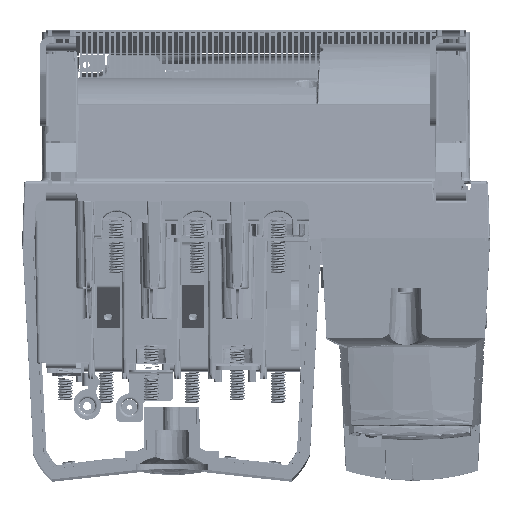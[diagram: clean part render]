
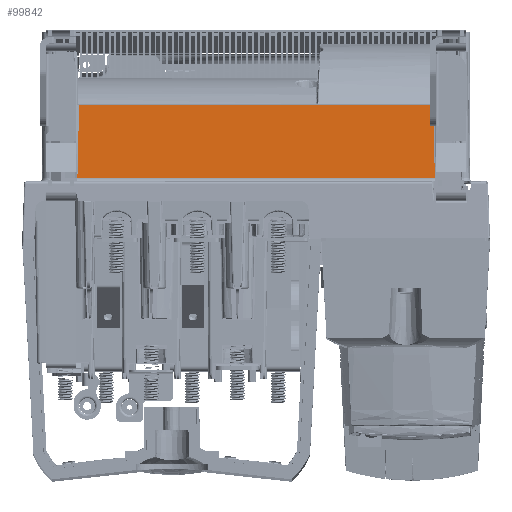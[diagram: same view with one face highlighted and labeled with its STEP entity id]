
A CAD part, top view. The second image highlights one B-rep face of the part: STEP entity #99842.
In plain terms, the highlighted planar face has unit normal (0, 0.035, 0.999).
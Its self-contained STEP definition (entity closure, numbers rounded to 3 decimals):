
#28645=DIRECTION('',(1.,0.,0.));
#28646=VECTOR('',#28645,234.615);
#28647=CARTESIAN_POINT('',(-222.308,112.717,
576.011));
#28648=LINE('',#28647,#28646);
#28649=CARTESIAN_POINT('',(12.308,112.717,576.011));
#28650=CARTESIAN_POINT('',(12.321,109.543,576.122));
#28651=CARTESIAN_POINT('',(12.356,103.455,576.335));
#28652=CARTESIAN_POINT('',(12.433,95.129,576.625));
#28653=CARTESIAN_POINT('',(12.536,87.55,576.89));
#28654=CARTESIAN_POINT('',(12.668,80.685,577.13));
#28655=CARTESIAN_POINT('',(12.834,74.489,577.346));
#28656=CARTESIAN_POINT('',(13.062,68.907,577.541));
#28657=CARTESIAN_POINT('',(13.26,65.524,577.659));
#28658=CARTESIAN_POINT('',(13.446,63.93,577.715));
#28660=DIRECTION('',(-1.,0.,0.));
#28661=VECTOR('',#28660,236.892);
#28662=CARTESIAN_POINT('',(13.446,63.93,577.715));
#28663=LINE('',#28662,#28661);
#28664=CARTESIAN_POINT('',(-222.308,112.717,
576.011));
#28665=CARTESIAN_POINT('',(-222.321,109.425,
576.126));
#28666=CARTESIAN_POINT('',(-222.358,103.183,
576.344));
#28667=CARTESIAN_POINT('',(-222.435,94.949,
576.632));
#28668=CARTESIAN_POINT('',(-222.536,87.549,
576.89));
#28669=CARTESIAN_POINT('',(-222.665,80.818,
577.125));
#28670=CARTESIAN_POINT('',(-222.83,74.613,
577.342));
#28671=CARTESIAN_POINT('',(-223.059,68.962,
577.539));
#28672=CARTESIAN_POINT('',(-223.257,65.543,
577.658));
#28673=CARTESIAN_POINT('',(-223.446,63.93,
577.715));
#35773=CARTESIAN_POINT('',(-222.308,112.717,
576.011));
#74626=CARTESIAN_POINT('',(-223.446,63.93,
577.715));
#74628=VERTEX_POINT('',#74626);
#74630=CARTESIAN_POINT('',(13.446,63.93,577.715));
#74632=VERTEX_POINT('',#74630);
#74640=VERTEX_POINT('',#35773);
#74642=CARTESIAN_POINT('',(12.308,112.717,576.011));
#74643=VERTEX_POINT('',#74642);
#99827=CARTESIAN_POINT('',(-260.,113.2,575.994));
#99828=DIRECTION('',(0.,0.035,0.999));
#99829=DIRECTION('',(0.,-0.999,0.035));
#99830=AXIS2_PLACEMENT_3D('',#99827,#99828,#99829);
#99831=PLANE('',#99830);
#99833=ORIENTED_EDGE('',*,*,#99832,.T.);
#99835=ORIENTED_EDGE('',*,*,#99834,.T.);
#99837=ORIENTED_EDGE('',*,*,#99836,.T.);
#99839=ORIENTED_EDGE('',*,*,#99838,.F.);
#99840=EDGE_LOOP('',(#99833,#99835,#99837,#99839));
#99841=FACE_OUTER_BOUND('',#99840,.F.);
#99842=ADVANCED_FACE('',(#99841),#99831,.T.);
#28659=B_SPLINE_CURVE_WITH_KNOTS('',3,(#28649,#28650,#28651,#28652,#28653,
#28654,#28655,#28656,#28657,#28658),.UNSPECIFIED.,.F.,.F.,(4,1,1,1,1,1,1,4),(
0.,0.143,0.286,0.429,0.571,
0.714,0.857,1.),.UNSPECIFIED.);
#28674=B_SPLINE_CURVE_WITH_KNOTS('',3,(#28664,#28665,#28666,#28667,#28668,
#28669,#28670,#28671,#28672,#28673),.UNSPECIFIED.,.F.,.F.,(4,1,1,1,1,1,1,4),(
0.,0.143,0.286,0.429,0.571,
0.714,0.857,1.),.UNSPECIFIED.);
#99832=EDGE_CURVE('',#74640,#74643,#28648,.T.);
#99834=EDGE_CURVE('',#74643,#74632,#28659,.T.);
#99836=EDGE_CURVE('',#74632,#74628,#28663,.T.);
#99838=EDGE_CURVE('',#74640,#74628,#28674,.T.);
